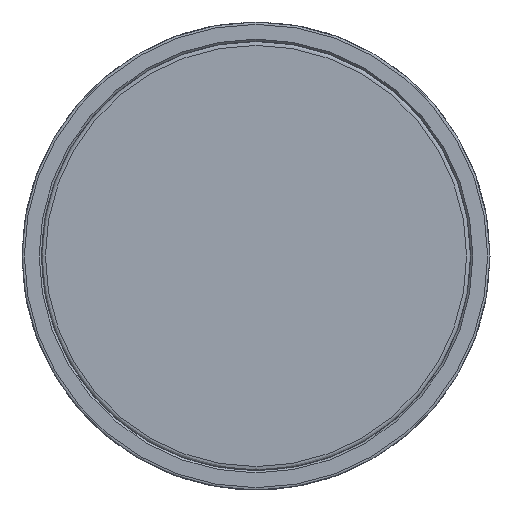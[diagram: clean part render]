
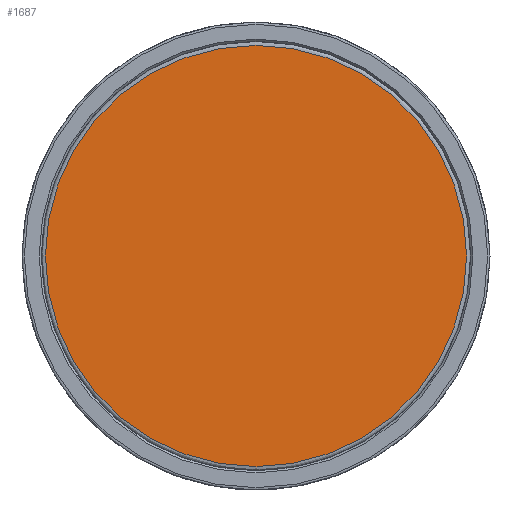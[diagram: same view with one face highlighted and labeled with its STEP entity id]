
A CAD part, left-side view. The second image highlights one B-rep face of the part: STEP entity #1687.
In plain terms, the highlighted planar face has unit normal (-1, 0, 0).
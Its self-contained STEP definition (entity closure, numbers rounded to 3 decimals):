
#1662=CARTESIAN_POINT('',(-524.635,-422.109,-66.));
#1663=DIRECTION('',(-1.0,0.0,0.0));
#1664=DIRECTION('',(0.0,-1.0,0.0));
#1665=AXIS2_PLACEMENT_3D('',#1662,#1663,#1664);
#1666=PLANE('',#1665);
#1667=CARTESIAN_POINT('',(-524.635,-542.109,0.0));
#1668=VERTEX_POINT('',#1667);
#1669=CARTESIAN_POINT('',(-524.635,-434.109,0.0));
#1670=VERTEX_POINT('',#1669);
#1671=CARTESIAN_POINT('',(-524.635,-488.109,0.0));
#1672=DIRECTION('',(-1.0,0.0,0.0));
#1673=DIRECTION('',(0.0,-1.0,0.0));
#1674=AXIS2_PLACEMENT_3D('',#1671,#1672,#1673);
#1675=CIRCLE('',#1674,54.0);
#1676=EDGE_CURVE('',#1668,#1670,#1675,.T.);
#1677=ORIENTED_EDGE('',*,*,#1676,.T.);
#1678=CARTESIAN_POINT('',(-524.635,-488.109,0.0));
#1679=DIRECTION('',(-1.0,0.0,0.0));
#1680=DIRECTION('',(0.0,-1.0,0.0));
#1681=AXIS2_PLACEMENT_3D('',#1678,#1679,#1680);
#1682=CIRCLE('',#1681,54.0);
#1683=EDGE_CURVE('',#1670,#1668,#1682,.T.);
#1684=ORIENTED_EDGE('',*,*,#1683,.T.);
#1685=EDGE_LOOP('',(#1677,#1684));
#1686=FACE_OUTER_BOUND('',#1685,.T.);
#1687=ADVANCED_FACE('',(#1686),#1666,.T.);
